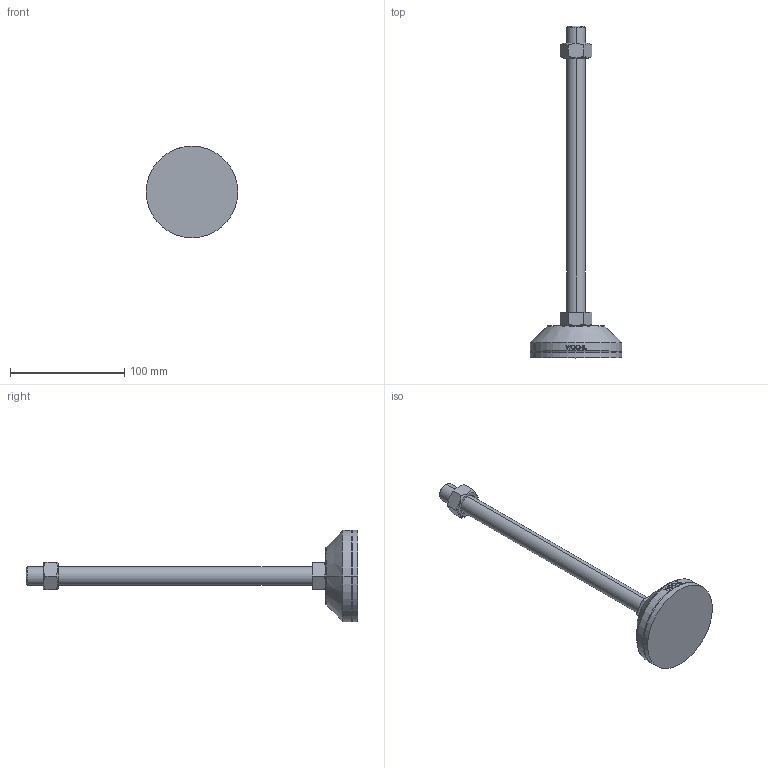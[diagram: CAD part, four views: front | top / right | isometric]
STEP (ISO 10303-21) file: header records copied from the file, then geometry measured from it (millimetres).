
FILE_DESCRIPTION (( 'STEP AP214' ), '1' );
FILE_NAME ('NHNR80-M16-250.step', '2021-01-25T06:21:59', ( '' ), ( '' ), 'SwSTEP 2.0', 'SolidWorks 2019', '' );
FILE_SCHEMA (( 'AUTOMOTIVE_DESIGN' ));
Length unit declared in the file: millimetre
Products named in the file (2): NHNR80-M16-250
Bounding box: 80 x 290 x 80 mm (x, y, z)
Volume: 176008.5 mm3; surface area: 41544.1 mm2
Topology: 4 solids, 4 shells, 105 faces, 239 edges, 152 vertices
Faces by surface type: plane 49, cylinder 18, bspline 16, cone 14, torus 8
Entity records: 4363 total; most frequent: CARTESIAN_POINT 2046, ORIENTED_EDGE 478, DIRECTION 429, EDGE_CURVE 239, AXIS2_PLACEMENT_3D 165, VERTEX_POINT 152, EDGE_LOOP 117, FACE_OUTER_BOUND 105
